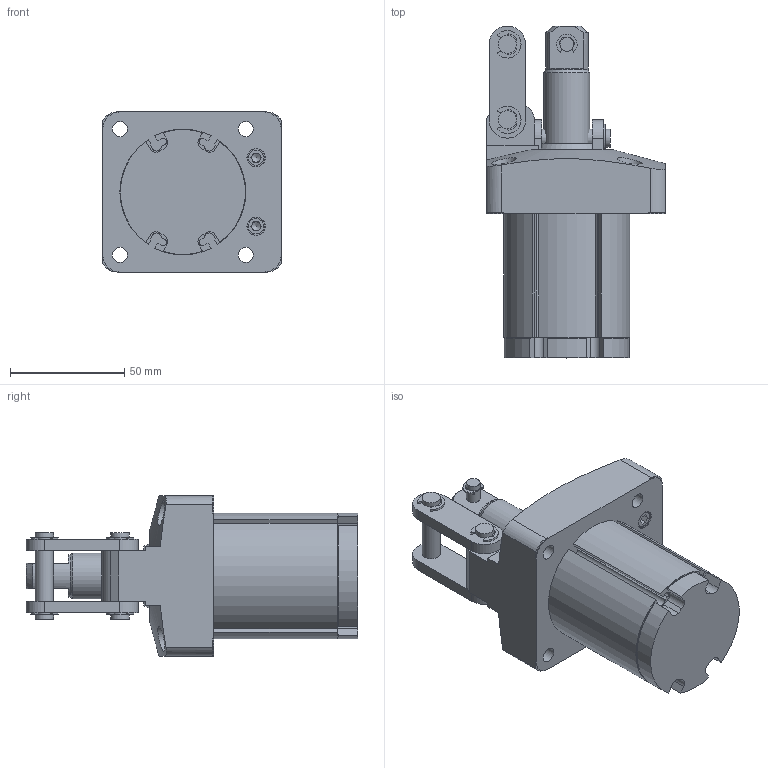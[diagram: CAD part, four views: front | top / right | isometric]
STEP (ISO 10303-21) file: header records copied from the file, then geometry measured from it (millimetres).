
FILE_DESCRIPTION( ( '' ), '1' );
FILE_NAME( 'W:/Catalogue/JSS/jss32-30/jss32-30.stp', '2008-05-26T04:19:06', ( '機械事業部産業機器グループ' ), ( '豊和工業株式会社' ), 'XStep 1.0', ' ', ' ' );
FILE_SCHEMA( ( 'CONFIG_CONTROL_DESIGN' ) );
Length unit declared in the file: millimetre
Products named in the file (7): Assem1; 1; 2; 3; 4; 5; 6
Bounding box: 78 x 145 x 70 mm (x, y, z)
Volume: 556713.6 mm3; surface area: 127608.6 mm2
Topology: 14 solids, 16 shells, 754 faces, 2002 edges, 1316 vertices
Faces by surface type: plane 430, cylinder 276, cone 42, torus 6
Full cylindrical faces by diameter (mm): 4 x4, 6 x16, 6.6 x8, 8 x18, 8.3 x4, 11 x8, 18.5 x2, 20 x4, 22 x2, 27 x2, 32 x8
Entity records: 11807 total; most frequent: CARTESIAN_POINT 2559, DIRECTION 1933, ORIENTED_EDGE 1756, EDGE_CURVE 878, AXIS2_PLACEMENT_3D 720, VERTEX_POINT 608, LINE 493, VECTOR 493
